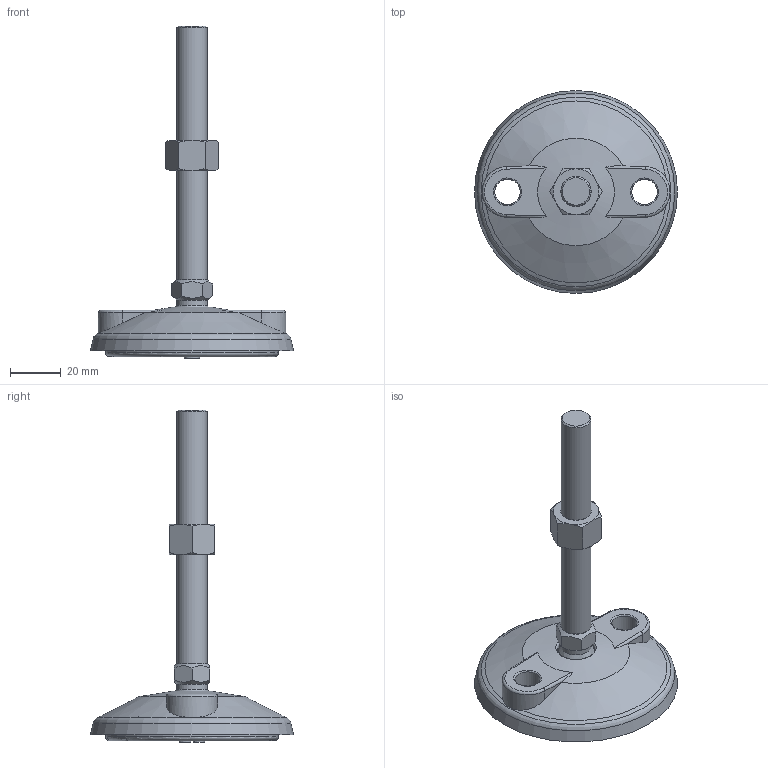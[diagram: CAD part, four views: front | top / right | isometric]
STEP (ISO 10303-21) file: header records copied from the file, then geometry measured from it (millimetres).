
FILE_DESCRIPTION(/* description */ (''),/* implementation_level */ '2;1');
FILE_NAME(/* name */ 'Articulating Anti-slip Levelling Foot - Nylon 80mm - M12 - 100mm.step',/* time_stamp */ '2025-10-14T15:51:02+03:00',/* author */ (''),/* organization */ (''),/* preprocessor_version */ 'ST-DEVELOPER v20.1',/* originating_system */ 'Autodesk Translation Framework v14.17.0.0',/* authorisation */ '');
FILE_SCHEMA (('AUTOMOTIVE_DESIGN { 1 0 10303 214 3 1 1 }'));
Length unit declared in the file: millimetre
Products named in the file (7): Articulating Anti-slip Levelling Foot - Nylon 80mm - M12 - 100mm; Articulating Levelling Foot Stud - M12 - 100mm; hex nut style 2_am_B18.2.4.2M - Hex nut, Style 2,  M12 x 1.75 --D-N; Articulating Levelling Foot Stud - M12 - 100mm_1; 340-010BA-01_ASM; 340-0101B-01; 340-1003B-01
Assembly tree (6 placements, depth 3):
  Articulating Anti-slip Levelling Foot - Nylon 80mm - M12 - 100mm
    Articulating Levelling Foot Stud - M12 - 100mm
      hex nut style 2_am_B18.2.4.2M - Hex nut, Style 2,  M12 x 1.75 --D-N
      Articulating Levelling Foot Stud - M12 - 100mm_1
    340-010BA-01_ASM
      340-0101B-01
      340-1003B-01
Bounding box: 80 x 80 x 130.82 mm (x, y, z)
Volume: 69142.4 mm3; surface area: 35405 mm2
Topology: 4 solids, 4 shells, 369 faces, 1053 edges, 688 vertices
Faces by surface type: plane 246, cylinder 74, cone 40, torus 7, bspline 1, sphere 1
Full cylindrical faces by diameter (mm): 4 x2, 7 x2, 10 x2, 10.274 x1, 11 x2, 11.834 x1, 12 x1, 12.1 x1, 12.166 x1, 14.7 x2, 15 x1, 16 x1, 40 x1, 68 x1, 68.8 x1
Entity records: 12954 total; most frequent: CARTESIAN_POINT 3193, ORIENTED_EDGE 2102, DIRECTION 1948, EDGE_CURVE 1051, VERTEX_POINT 688, AXIS2_PLACEMENT_3D 668, LINE 612, VECTOR 612
